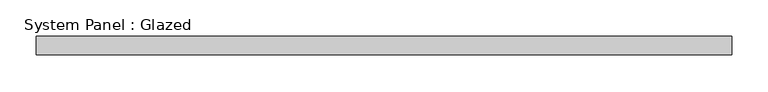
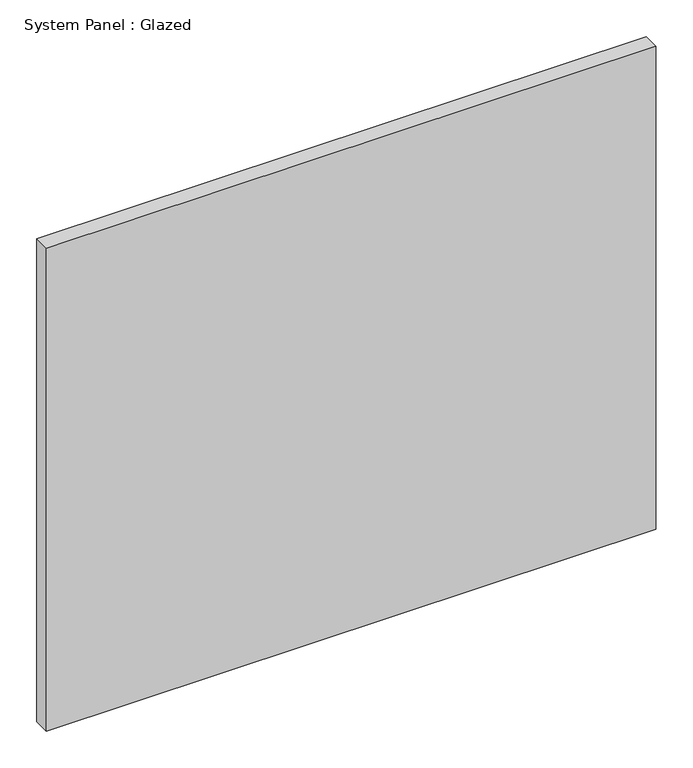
"""IFC4 building model written with IfcOpenShell, lengths in millimetres: plate geometry, System Panel : Glazed."""

from ifc_helpers import new_model, si_unit, origin, origin_with_axes, place, context, project, spatial, polyline, outline, extrude, source, transform, mapped, element, save


def system_panel_glazed_0bad98d9(model_context):
    return source(origin(), model_context, "Body", "SweptSolid", [
        extrude(outline(polyline([(476.4651937, 19.05), (-476.4651937, 19.05), (-476.4651937, 44.45), (476.4651937, 44.45), (476.4651937, 19.05)])), origin_with_axes(), (0.0, 0.0, 1.0), 798.5967633),
    ])


if __name__ == "__main__":
    model = new_model("IFC4")
    model_context = context("Model", 3, world=origin())
    ifc_project = project(units=[si_unit("LENGTHUNIT", "METRE", prefix="MILLI")], contexts=[model_context])
    site = spatial("IfcSite", under=ifc_project)
    building = spatial("IfcBuilding", under=site)
    placement = place(None, origin())
    system_panel_glazed_shape = system_panel_glazed_0bad98d9(model_context)
    element("IfcPlate", 1, ObjectType="System Panel : Glazed", at=placement, inside=building, context=model_context, shape_type="MappedRepresentation", body=[
        mapped(system_panel_glazed_shape, transform((0.0, 0.0, 0.0), x_axis=(1.0, 0.0, 0.0), y_axis=(0.0, 1.0, 0.0), z_axis=(0.0, 0.0, 1.0))),
    ])
    save(model, "model.ifc")
